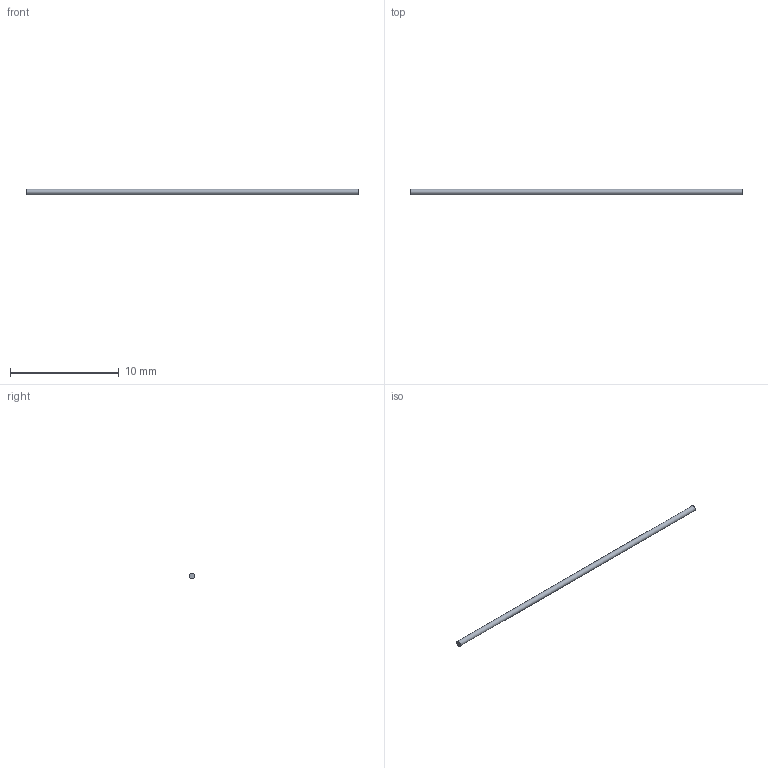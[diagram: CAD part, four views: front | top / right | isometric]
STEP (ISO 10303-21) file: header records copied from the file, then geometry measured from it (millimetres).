
FILE_DESCRIPTION(('FreeCAD Model'),'2;1');
FILE_NAME('Open CASCADE Shape Model','2026-04-07T19:07:43',('FreeCAD'),( 'FreeCAD'),'Open CASCADE STEP processor 7.8','FreeCAD','Unknown');
FILE_SCHEMA(('AUTOMOTIVE_DESIGN { 1 0 10303 214 1 1 1 1 }'));
Length unit declared in the file: millimetre
Products named in the file (1): Open CASCADE STEP translator 7.8 27
Bounding box: 30.48 x 0.5 x 0.5 mm (x, y, z)
Volume: 6 mm3; surface area: 48.3 mm2
Topology: 1 solids, 1 shells, 3 faces, 3 edges, 2 vertices
Faces by surface type: plane 2, cylinder 1
Full cylindrical faces by diameter (mm): 0.5 x1
Entity records: 69 total; most frequent: DIRECTION 13, CARTESIAN_POINT 9, AXIS2_PLACEMENT_3D 6, ORIENTED_EDGE 6, ADVANCED_FACE 3, FACE_BOUND 3, EDGE_LOOP 3, EDGE_CURVE 3
